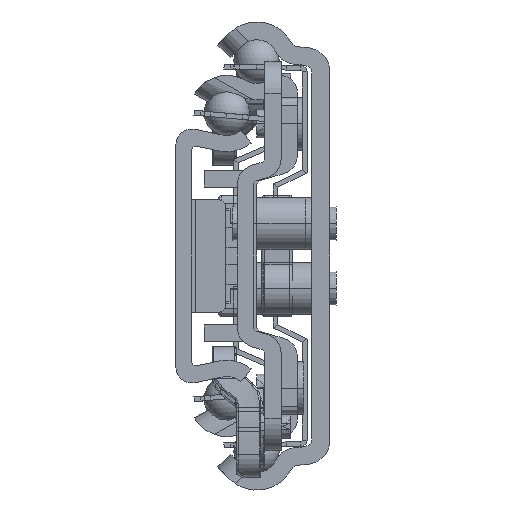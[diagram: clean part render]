
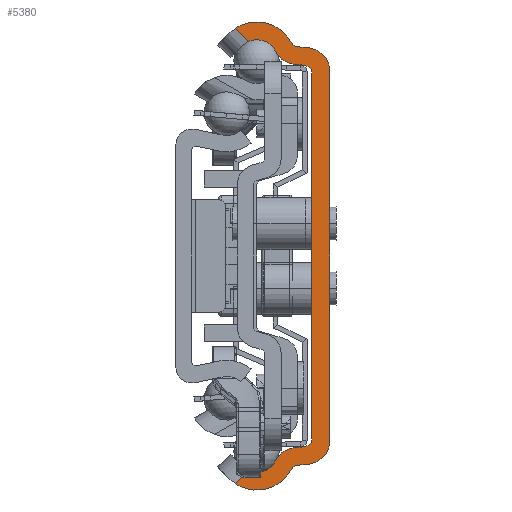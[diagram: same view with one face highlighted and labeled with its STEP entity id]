
A CAD part, left-side view. The second image highlights one B-rep face of the part: STEP entity #5380.
In plain terms, the highlighted planar face has unit normal (-1, 0, 0).
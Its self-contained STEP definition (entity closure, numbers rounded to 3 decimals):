
#1=DIRECTION('',(0.,0.717,-0.697));
#2=VECTOR('',#1,2.305);
#3=CARTESIAN_POINT('',(-400.,9.972,-26.461));
#4=LINE('',#3,#2);
#5=CARTESIAN_POINT('',(-400.,9.,-24.05));
#6=DIRECTION('',(-1.,0.,0.));
#7=DIRECTION('',(0.,0.374,-0.927));
#8=AXIS2_PLACEMENT_3D('',#5,#6,#7);
#10=CARTESIAN_POINT('',(-400.,4.005,-26.582));
#11=DIRECTION('',(-1.,0.,0.));
#12=DIRECTION('',(0.,0.07,0.998));
#13=AXIS2_PLACEMENT_3D('',#10,#11,#12);
#15=DIRECTION('',(0.,-0.998,0.07));
#16=VECTOR('',#15,1.087);
#17=CARTESIAN_POINT('',(-400.,4.214,-23.589));
#18=LINE('',#17,#16);
#19=DIRECTION('',(0.,0.,1.));
#20=VECTOR('',#19,45.032);
#21=CARTESIAN_POINT('',(-400.,2.2,-22.516));
#22=LINE('',#21,#20);
#23=DIRECTION('',(0.,0.998,0.07));
#24=VECTOR('',#23,1.087);
#25=CARTESIAN_POINT('',(-400.,3.13,23.514));
#26=LINE('',#25,#24);
#27=CARTESIAN_POINT('',(-400.,4.005,26.582));
#28=DIRECTION('',(-1.,0.,0.));
#29=DIRECTION('',(0.,0.892,-0.452));
#30=AXIS2_PLACEMENT_3D('',#27,#28,#29);
#32=CARTESIAN_POINT('',(-400.,9.,24.05));
#33=DIRECTION('',(-1.,0.,0.));
#34=DIRECTION('',(0.,-0.892,0.452));
#35=AXIS2_PLACEMENT_3D('',#32,#33,#34);
#37=DIRECTION('',(0.,-0.717,-0.697));
#38=VECTOR('',#37,2.305);
#39=CARTESIAN_POINT('',(-400.,11.624,28.069));
#40=LINE('',#39,#38);
#41=CARTESIAN_POINT('',(-400.,9.,24.05));
#42=DIRECTION('',(1.,0.,0.));
#43=DIRECTION('',(0.,0.547,0.837));
#44=AXIS2_PLACEMENT_3D('',#41,#42,#43);
#46=DIRECTION('',(0.,-0.998,-0.07));
#47=VECTOR('',#46,1.161);
#48=CARTESIAN_POINT('',(-400.,3.949,25.776));
#49=LINE('',#48,#47);
#50=CARTESIAN_POINT('',(-400.,3.,22.702));
#51=DIRECTION('',(-1.,0.,0.));
#52=DIRECTION('',(0.,-1.,0.));
#53=AXIS2_PLACEMENT_3D('',#50,#51,#52);
#55=DIRECTION('',(0.,0.,-1.));
#56=VECTOR('',#55,45.405);
#57=CARTESIAN_POINT('',(-400.,0.,22.702));
#58=LINE('',#57,#56);
#59=CARTESIAN_POINT('',(-400.,3.,-22.702));
#60=DIRECTION('',(-1.,0.,0.));
#61=DIRECTION('',(0.,-0.07,-0.998));
#62=AXIS2_PLACEMENT_3D('',#59,#60,#61);
#64=DIRECTION('',(0.,0.998,-0.07));
#65=VECTOR('',#64,1.161);
#66=CARTESIAN_POINT('',(-400.,2.791,-25.695));
#67=LINE('',#66,#65);
#68=CARTESIAN_POINT('',(-400.,9.,-24.05));
#69=DIRECTION('',(1.,0.,0.));
#70=DIRECTION('',(0.,-0.883,-0.47));
#71=AXIS2_PLACEMENT_3D('',#68,#69,#70);
#79=CARTESIAN_POINT('',(-400.,11.624,-28.069));
#103=CARTESIAN_POINT('',(-400.,9.972,-26.461));
#195=CARTESIAN_POINT('',(-400.,11.624,28.069));
#201=CARTESIAN_POINT('',(-400.,3.879,26.774));
#202=DIRECTION('',(1.,0.,0.));
#203=DIRECTION('',(0.,0.07,-0.998));
#204=AXIS2_PLACEMENT_3D('',#201,#202,#203);
#1227=CARTESIAN_POINT('',(-400.,3.879,-26.774));
#1228=DIRECTION('',(1.,0.,0.));
#1229=DIRECTION('',(0.,0.883,0.47));
#1230=AXIS2_PLACEMENT_3D('',#1227,#1228,#1229);
#2322=CARTESIAN_POINT('',(-400.,3.2,-22.516));
#2323=DIRECTION('',(1.,0.,0.));
#2324=DIRECTION('',(0.,-1.,0.));
#2325=AXIS2_PLACEMENT_3D('',#2322,#2323,#2324);
#2340=CARTESIAN_POINT('',(-400.,3.2,22.516));
#2341=DIRECTION('',(1.,0.,0.));
#2342=DIRECTION('',(0.,-0.07,0.998));
#2343=AXIS2_PLACEMENT_3D('',#2340,#2341,#2342);
#2364=CARTESIAN_POINT('',(-400.,9.972,26.461));
#4197=CARTESIAN_POINT('',(-400.,2.2,-22.516));
#4199=VERTEX_POINT('',#4197);
#4201=CARTESIAN_POINT('',(-400.,3.13,-23.514));
#4203=VERTEX_POINT('',#4201);
#4205=CARTESIAN_POINT('',(-400.,3.13,23.514));
#4207=VERTEX_POINT('',#4205);
#4209=CARTESIAN_POINT('',(-400.,2.2,22.516));
#4211=VERTEX_POINT('',#4209);
#4213=CARTESIAN_POINT('',(-400.,3.949,25.776));
#4215=VERTEX_POINT('',#4213);
#4217=CARTESIAN_POINT('',(-400.,4.762,26.304));
#4219=VERTEX_POINT('',#4217);
#4221=CARTESIAN_POINT('',(-400.,4.762,-26.304));
#4223=VERTEX_POINT('',#4221);
#4225=CARTESIAN_POINT('',(-400.,3.949,-25.776));
#4227=VERTEX_POINT('',#4225);
#4229=CARTESIAN_POINT('',(-400.,4.214,-23.589));
#4230=CARTESIAN_POINT('',(-400.,6.681,-25.226));
#4231=VERTEX_POINT('',#4229);
#4232=VERTEX_POINT('',#4230);
#4237=CARTESIAN_POINT('',(-400.,6.681,25.226));
#4238=CARTESIAN_POINT('',(-400.,4.214,23.589));
#4239=VERTEX_POINT('',#4237);
#4240=VERTEX_POINT('',#4238);
#4245=CARTESIAN_POINT('',(-400.,0.,22.702));
#4246=CARTESIAN_POINT('',(-400.,2.791,25.695));
#4247=VERTEX_POINT('',#4245);
#4248=VERTEX_POINT('',#4246);
#4253=CARTESIAN_POINT('',(-400.,2.791,-25.695));
#4254=CARTESIAN_POINT('',(-400.,0.,-22.702));
#4255=VERTEX_POINT('',#4253);
#4256=VERTEX_POINT('',#4254);
#4603=VERTEX_POINT('',#79);
#4611=VERTEX_POINT('',#103);
#4612=VERTEX_POINT('',#2364);
#4620=VERTEX_POINT('',#195);
#5333=CARTESIAN_POINT('',(-400.,0.,0.));
#5334=DIRECTION('',(1.,0.,0.));
#5335=DIRECTION('',(0.,-1.,0.));
#5336=AXIS2_PLACEMENT_3D('',#5333,#5334,#5335);
#5337=PLANE('',#5336);
#5339=ORIENTED_EDGE('',*,*,#5338,.F.);
#5341=ORIENTED_EDGE('',*,*,#5340,.T.);
#5343=ORIENTED_EDGE('',*,*,#5342,.F.);
#5345=ORIENTED_EDGE('',*,*,#5344,.T.);
#5347=ORIENTED_EDGE('',*,*,#5346,.F.);
#5349=ORIENTED_EDGE('',*,*,#5348,.T.);
#5351=ORIENTED_EDGE('',*,*,#5350,.F.);
#5353=ORIENTED_EDGE('',*,*,#5352,.T.);
#5355=ORIENTED_EDGE('',*,*,#5354,.F.);
#5357=ORIENTED_EDGE('',*,*,#5356,.T.);
#5359=ORIENTED_EDGE('',*,*,#5358,.F.);
#5361=ORIENTED_EDGE('',*,*,#5360,.T.);
#5363=ORIENTED_EDGE('',*,*,#5362,.F.);
#5365=ORIENTED_EDGE('',*,*,#5364,.T.);
#5367=ORIENTED_EDGE('',*,*,#5366,.F.);
#5369=ORIENTED_EDGE('',*,*,#5368,.T.);
#5371=ORIENTED_EDGE('',*,*,#5370,.F.);
#5373=ORIENTED_EDGE('',*,*,#5372,.T.);
#5375=ORIENTED_EDGE('',*,*,#5374,.F.);
#5377=ORIENTED_EDGE('',*,*,#5376,.T.);
#5378=EDGE_LOOP('',(#5339,#5341,#5343,#5345,#5347,#5349,#5351,#5353,#5355,#5357,
#5359,#5361,#5363,#5365,#5367,#5369,#5371,#5373,#5375,#5377));
#5379=FACE_OUTER_BOUND('',#5378,.F.);
#9=CIRCLE('',#8,2.6);
#14=CIRCLE('',#13,3.);
#31=CIRCLE('',#30,3.);
#36=CIRCLE('',#35,2.6);
#45=CIRCLE('',#44,4.8);
#54=CIRCLE('',#53,3.);
#63=CIRCLE('',#62,3.);
#72=CIRCLE('',#71,4.8);
#205=CIRCLE('',#204,1.);
#1231=CIRCLE('',#1230,1.);
#2326=CIRCLE('',#2325,1.);
#2344=CIRCLE('',#2343,1.);
#5338=EDGE_CURVE('',#4611,#4603,#4,.T.);
#5340=EDGE_CURVE('',#4611,#4232,#9,.T.);
#5342=EDGE_CURVE('',#4231,#4232,#14,.T.);
#5344=EDGE_CURVE('',#4231,#4203,#18,.T.);
#5346=EDGE_CURVE('',#4199,#4203,#2326,.T.);
#5348=EDGE_CURVE('',#4199,#4211,#22,.T.);
#5350=EDGE_CURVE('',#4207,#4211,#2344,.T.);
#5352=EDGE_CURVE('',#4207,#4240,#26,.T.);
#5354=EDGE_CURVE('',#4239,#4240,#31,.T.);
#5356=EDGE_CURVE('',#4239,#4612,#36,.T.);
#5358=EDGE_CURVE('',#4620,#4612,#40,.T.);
#5360=EDGE_CURVE('',#4620,#4219,#45,.T.);
#5362=EDGE_CURVE('',#4215,#4219,#205,.T.);
#5364=EDGE_CURVE('',#4215,#4248,#49,.T.);
#5366=EDGE_CURVE('',#4247,#4248,#54,.T.);
#5368=EDGE_CURVE('',#4247,#4256,#58,.T.);
#5370=EDGE_CURVE('',#4255,#4256,#63,.T.);
#5372=EDGE_CURVE('',#4255,#4227,#67,.T.);
#5374=EDGE_CURVE('',#4223,#4227,#1231,.T.);
#5376=EDGE_CURVE('',#4223,#4603,#72,.T.);
#5380=ADVANCED_FACE('',(#5379),#5337,.F.);
